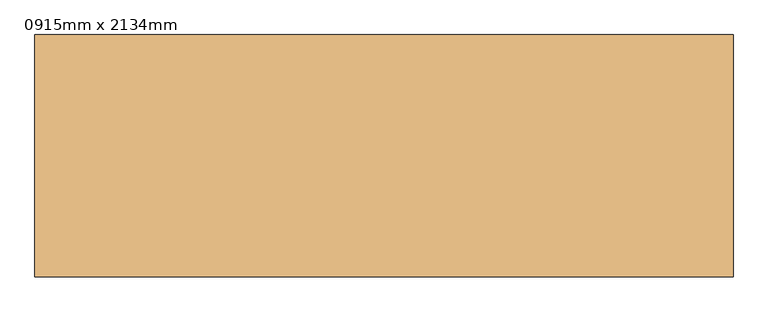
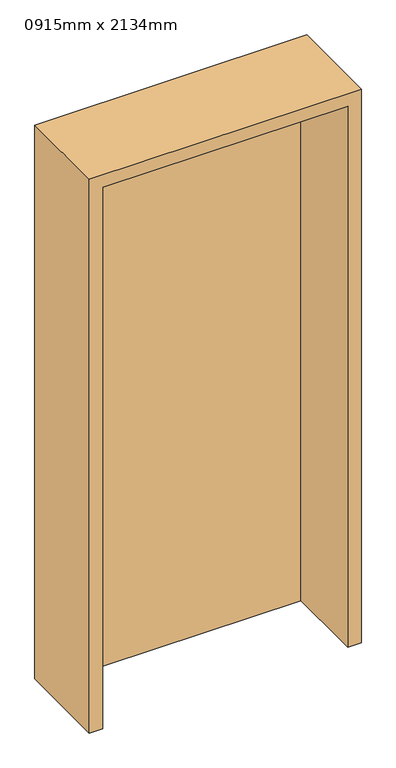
"""IFC4 building model written with IfcOpenShell, lengths in millimetres: door geometry, m-doors-hm-f1-a : 0915mm x 2134mm."""

from ifc_helpers import new_model, si_unit, frame, origin, origin_with_axes, place, context, project, spatial, polyline, outline, extrude, source, transform, mapped, element, save


def door_0915mm_x_2134mm_b19b82af(model_context):
    return source(origin(), model_context, "Body", "SweptSolid", [
        extrude(outline(polyline([(457.5, -46.5), (-457.5, -46.5), (-457.5, -1.5), (457.5, -1.5), (457.5, -46.5)])), origin_with_axes(), (0.0, 0.0, 1.0), 2134.0),
        extrude(outline(polyline([(0.0, -507.5), (0.0, -457.5), (2134.0, -457.5), (2134.0, 457.5), (0.0, 457.5), (0.0, 507.5), (2184.0, 507.5), (2184.0, -507.5), (0.0, -507.5)])), frame((0.0, -351.0, 0.0), z_axis=(0.0, 1.0, 0.0), x_axis=(0.0, 0.0, 1.0)), (0.0, 0.0, 1.0), 352.0),
    ])


if __name__ == "__main__":
    model = new_model("IFC4")
    model_context = context("Model", 3, world=origin())
    ifc_project = project(units=[si_unit("LENGTHUNIT", "METRE", prefix="MILLI")], contexts=[model_context])
    site = spatial("IfcSite", under=ifc_project)
    building = spatial("IfcBuilding", under=site)
    placement = place(None, origin())
    door_0915mm_x_2134mm_shape = door_0915mm_x_2134mm_b19b82af(model_context)
    element("IfcDoor", 1, ObjectType="m-doors-hm-f1-a : 0915mm x 2134mm", at=placement, inside=building, context=model_context, shape_type="MappedRepresentation", body=[
        mapped(door_0915mm_x_2134mm_shape, transform((0.0, 0.0, 0.0), x_axis=(1.0, 0.0, 0.0), y_axis=(0.0, 1.0, 0.0), z_axis=(0.0, 0.0, 1.0))),
    ])
    save(model, "model.ifc")
